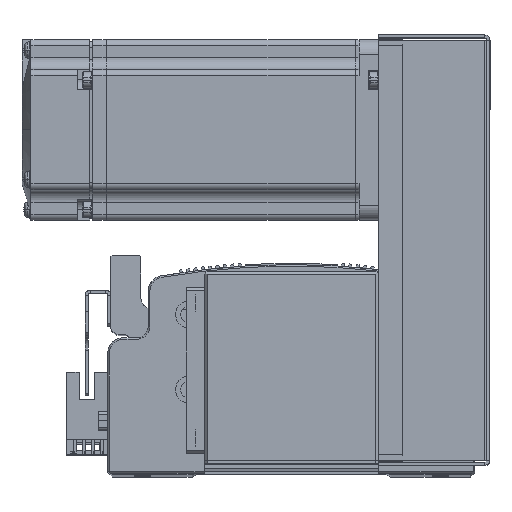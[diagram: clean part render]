
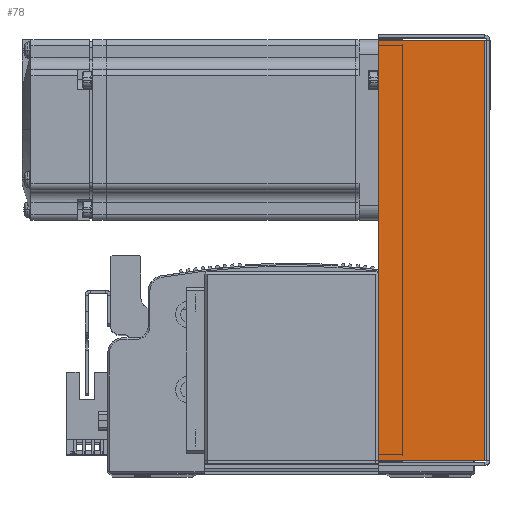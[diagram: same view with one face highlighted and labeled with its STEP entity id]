
A CAD part, top view. The second image highlights one B-rep face of the part: STEP entity #78.
In plain terms, the highlighted planar face has unit normal (0, 0, 1) as drawn and (0, 0, -1) by its records, which use the part's own axes.
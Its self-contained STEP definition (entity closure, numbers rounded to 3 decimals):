
#78 = ADVANCED_FACE ( 'NONE', ( #54084 ), #71073, .F. ) ;
#889 = CARTESIAN_POINT ( 'NONE',  ( 69.793, 36., -33.5 ) ) ;
#906 = CARTESIAN_POINT ( 'NONE',  ( -69.793, 36., -33.5 ) ) ;
#946 = CARTESIAN_POINT ( 'NONE',  ( 69.793, 0.737, -33.5 ) ) ;
#3029 = CARTESIAN_POINT ( 'NONE',  ( -69.793, 0.737, -33.5 ) ) ;
#7555 = DIRECTION ( 'NONE',  ( 0., -1., 0. ) ) ;
#12643 = VECTOR ( 'NONE', #25669, 1000. ) ;
#12652 = VECTOR ( 'NONE', #25713, 1000. ) ;
#12656 = LINE ( 'NONE', #25724, #12652 ) ;
#12657 = LINE ( 'NONE', #25695, #12643 ) ;
#14324 = LINE ( 'NONE', #25388, #14366 ) ;
#14330 = LINE ( 'NONE', #25247, #14390 ) ;
#14366 = VECTOR ( 'NONE', #25399, 1000. ) ;
#14390 = VECTOR ( 'NONE', #25261, 1000. ) ;
#25247 = CARTESIAN_POINT ( 'NONE',  ( 69.793, 0., -33.5 ) ) ;
#25261 = DIRECTION ( 'NONE',  ( 0., 1., 0. ) ) ;
#25388 = CARTESIAN_POINT ( 'NONE',  ( 0., 36., -33.5 ) ) ;
#25399 = DIRECTION ( 'NONE',  ( 1., 0., 0. ) ) ;
#25669 = DIRECTION ( 'NONE',  ( 0., 1., 0. ) ) ;
#25695 = CARTESIAN_POINT ( 'NONE',  ( -69.793, 0., -33.5 ) ) ;
#25713 = DIRECTION ( 'NONE',  ( 1., 0., 0. ) ) ;
#25724 = CARTESIAN_POINT ( 'NONE',  ( 71.5, 0.737, -33.5 ) ) ;
#32047 = EDGE_LOOP ( 'NONE', ( #71921, #71985, #71981, #72008 ) ) ;
#54084 = FACE_OUTER_BOUND ( 'NONE', #32047, .T. ) ;
#63550 = AXIS2_PLACEMENT_3D ( 'NONE', #71074, #70795, #7555 ) ;
#65008 = EDGE_CURVE ( 'NONE', #79951, #79978, #14330, .T. ) ;
#65077 = EDGE_CURVE ( 'NONE', #80004, #79978, #14324, .T. ) ;
#65208 = EDGE_CURVE ( 'NONE', #79945, #80004, #12657, .T. ) ;
#65225 = EDGE_CURVE ( 'NONE', #79945, #79951, #12656, .T. ) ;
#70795 = DIRECTION ( 'NONE',  ( 0., 0., 1. ) ) ;
#71073 = PLANE ( 'NONE',  #63550 ) ;
#71074 = CARTESIAN_POINT ( 'NONE',  ( 0., 0., -33.5 ) ) ;
#71921 = ORIENTED_EDGE ( 'NONE', *, *, #65225, .F. ) ;
#71981 = ORIENTED_EDGE ( 'NONE', *, *, #65077, .T. ) ;
#71985 = ORIENTED_EDGE ( 'NONE', *, *, #65208, .T. ) ;
#72008 = ORIENTED_EDGE ( 'NONE', *, *, #65008, .F. ) ;
#79945 = VERTEX_POINT ( 'NONE', #3029 ) ;
#79951 = VERTEX_POINT ( 'NONE', #946 ) ;
#79978 = VERTEX_POINT ( 'NONE', #889 ) ;
#80004 = VERTEX_POINT ( 'NONE', #906 ) ;
